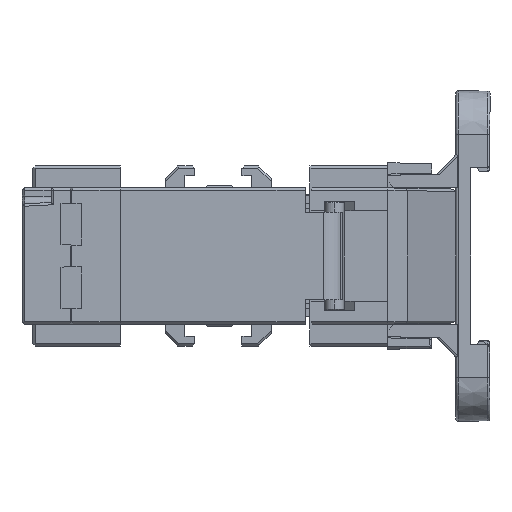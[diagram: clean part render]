
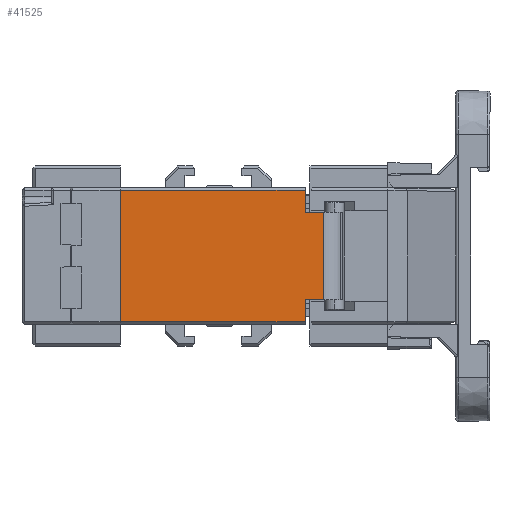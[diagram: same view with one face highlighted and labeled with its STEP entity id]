
A CAD part, left-side view. The second image highlights one B-rep face of the part: STEP entity #41525.
In plain terms, the highlighted planar face has unit normal (-1, 0, 0).
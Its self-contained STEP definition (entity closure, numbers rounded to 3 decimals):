
#231 = DIRECTION ( 'NONE',  ( 0., 0., -1. ) ) ;
#393 = VECTOR ( 'NONE', #35307, 1000. ) ;
#416 = DIRECTION ( 'NONE',  ( 0., 1., 0. ) ) ;
#690 = DIRECTION ( 'NONE',  ( 0., 1., 0. ) ) ;
#880 = VECTOR ( 'NONE', #1112, 1000. ) ;
#1112 = DIRECTION ( 'NONE',  ( 0., -1., 0. ) ) ;
#1833 = LINE ( 'NONE', #19578, #880 ) ;
#1920 = ORIENTED_EDGE ( 'NONE', *, *, #37858, .T. ) ;
#2271 = CARTESIAN_POINT ( 'NONE',  ( -40., -1., -9. ) ) ;
#2959 = LINE ( 'NONE', #42556, #393 ) ;
#3358 = ORIENTED_EDGE ( 'NONE', *, *, #8621, .T. ) ;
#4344 = LINE ( 'NONE', #19173, #38974 ) ;
#4536 = LINE ( 'NONE', #41467, #27869 ) ;
#5343 = FACE_OUTER_BOUND ( 'NONE', #25810, .T. ) ;
#6237 = CARTESIAN_POINT ( 'NONE',  ( -40., 37., 13.5 ) ) ;
#6787 = DIRECTION ( 'NONE',  ( 0., 0., -1. ) ) ;
#7018 = LINE ( 'NONE', #36209, #15897 ) ;
#7112 = ORIENTED_EDGE ( 'NONE', *, *, #39012, .F. ) ;
#7291 = CARTESIAN_POINT ( 'NONE',  ( -40., 37., 14. ) ) ;
#8621 = EDGE_CURVE ( 'NONE', #15583, #26416, #4536, .T. ) ;
#10276 = ORIENTED_EDGE ( 'NONE', *, *, #47385, .T. ) ;
#10531 = VERTEX_POINT ( 'NONE', #2271 ) ;
#12819 = AXIS2_PLACEMENT_3D ( 'NONE', #43231, #13610, #24563 ) ;
#13366 = PLANE ( 'NONE',  #12819 ) ;
#13610 = DIRECTION ( 'NONE',  ( 1., 0., 0. ) ) ;
#15026 = CARTESIAN_POINT ( 'NONE',  ( -40., -1., 13.5 ) ) ;
#15069 = ORIENTED_EDGE ( 'NONE', *, *, #35166, .F. ) ;
#15583 = VERTEX_POINT ( 'NONE', #16061 ) ;
#15897 = VECTOR ( 'NONE', #6787, 1000. ) ;
#16061 = CARTESIAN_POINT ( 'NONE',  ( -40., -4.705, 9. ) ) ;
#16318 = VERTEX_POINT ( 'NONE', #43645 ) ;
#17428 = DIRECTION ( 'NONE',  ( 0., 1., 0. ) ) ;
#18692 = LINE ( 'NONE', #33505, #30087 ) ;
#18952 = LINE ( 'NONE', #7291, #23222 ) ;
#19093 = CARTESIAN_POINT ( 'NONE',  ( -40., 37., -13.5 ) ) ;
#19173 = CARTESIAN_POINT ( 'NONE',  ( -40., -4.705, -9. ) ) ;
#19261 = CARTESIAN_POINT ( 'NONE',  ( -40., -4.705, -9. ) ) ;
#19578 = CARTESIAN_POINT ( 'NONE',  ( -40., -1., -13.5 ) ) ;
#21057 = VERTEX_POINT ( 'NONE', #15026 ) ;
#23222 = VECTOR ( 'NONE', #231, 1000. ) ;
#24195 = CARTESIAN_POINT ( 'NONE',  ( -40., 37., 13.5 ) ) ;
#24563 = DIRECTION ( 'NONE',  ( 0., 1., 0. ) ) ;
#24930 = ORIENTED_EDGE ( 'NONE', *, *, #43331, .F. ) ;
#25780 = VERTEX_POINT ( 'NONE', #19261 ) ;
#25810 = EDGE_LOOP ( 'NONE', ( #10276, #1920, #32353, #7112, #24930, #3358, #15069, #37551 ) ) ;
#26416 = VERTEX_POINT ( 'NONE', #32300 ) ;
#26788 = EDGE_CURVE ( 'NONE', #21057, #30901, #43866, .T. ) ;
#26894 = VERTEX_POINT ( 'NONE', #19093 ) ;
#27869 = VECTOR ( 'NONE', #416, 1000. ) ;
#30087 = VECTOR ( 'NONE', #37393, 1000. ) ;
#30901 = VERTEX_POINT ( 'NONE', #24195 ) ;
#32300 = CARTESIAN_POINT ( 'NONE',  ( -40., -1., 9. ) ) ;
#32353 = ORIENTED_EDGE ( 'NONE', *, *, #32374, .F. ) ;
#32374 = EDGE_CURVE ( 'NONE', #10531, #16318, #2959, .T. ) ;
#33505 = CARTESIAN_POINT ( 'NONE',  ( -40., -1., 14. ) ) ;
#35166 = EDGE_CURVE ( 'NONE', #21057, #26416, #18692, .T. ) ;
#35307 = DIRECTION ( 'NONE',  ( 0., 0., -1. ) ) ;
#36209 = CARTESIAN_POINT ( 'NONE',  ( -40., -4.705, 9. ) ) ;
#37393 = DIRECTION ( 'NONE',  ( 0., 0., -1. ) ) ;
#37551 = ORIENTED_EDGE ( 'NONE', *, *, #26788, .T. ) ;
#37858 = EDGE_CURVE ( 'NONE', #26894, #16318, #1833, .T. ) ;
#38974 = VECTOR ( 'NONE', #690, 1000. ) ;
#39012 = EDGE_CURVE ( 'NONE', #25780, #10531, #4344, .T. ) ;
#41467 = CARTESIAN_POINT ( 'NONE',  ( -40., -4.705, 9. ) ) ;
#41525 = ADVANCED_FACE ( 'NONE', ( #5343 ), #13366, .F. ) ;
#42556 = CARTESIAN_POINT ( 'NONE',  ( -40., -1., 14. ) ) ;
#43231 = CARTESIAN_POINT ( 'NONE',  ( -40., -1., 14. ) ) ;
#43331 = EDGE_CURVE ( 'NONE', #15583, #25780, #7018, .T. ) ;
#43645 = CARTESIAN_POINT ( 'NONE',  ( -40., -1., -13.5 ) ) ;
#43866 = LINE ( 'NONE', #6237, #46134 ) ;
#46134 = VECTOR ( 'NONE', #17428, 1000. ) ;
#47385 = EDGE_CURVE ( 'NONE', #30901, #26894, #18952, .T. ) ;
